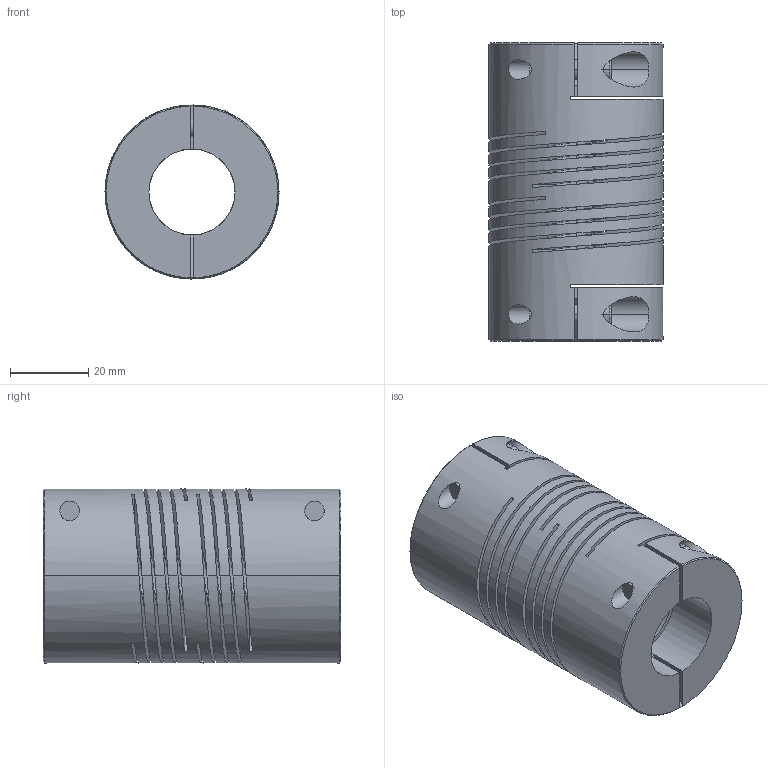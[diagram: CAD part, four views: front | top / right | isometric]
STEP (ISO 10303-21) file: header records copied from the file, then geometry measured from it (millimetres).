
FILE_DESCRIPTION((''),'2;1');
FILE_NAME('727_44','2006-12-05T',('Gary Melling'),(''),'PRO/ENGINEER BY PARAMETRIC TECHNOLOGY CORPORATION, 2006240','PRO/ENGINEER BY PARAMETRIC TECHNOLOGY CORPORATION, 2006240','');
FILE_SCHEMA(('CONFIG_CONTROL_DESIGN'));
Length unit declared in the file: millimetre
Products named in the file (1): 727_44
Bounding box: 44.5 x 76.2 x 44.5 mm (x, y, z)
Volume: 78503.6 mm3; surface area: 39709 mm2
Topology: 1 solids, 1 shells, 120 faces, 354 edges, 232 vertices
Faces by surface type: plane 56, cylinder 46, bspline 12, cone 6
Entity records: 6264 total; most frequent: CARTESIAN_POINT 3170, ORIENTED_EDGE 708, DIRECTION 532, EDGE_CURVE 354, VERTEX_POINT 232, VECTOR 188, LINE 188, AXIS2_PLACEMENT_3D 172
